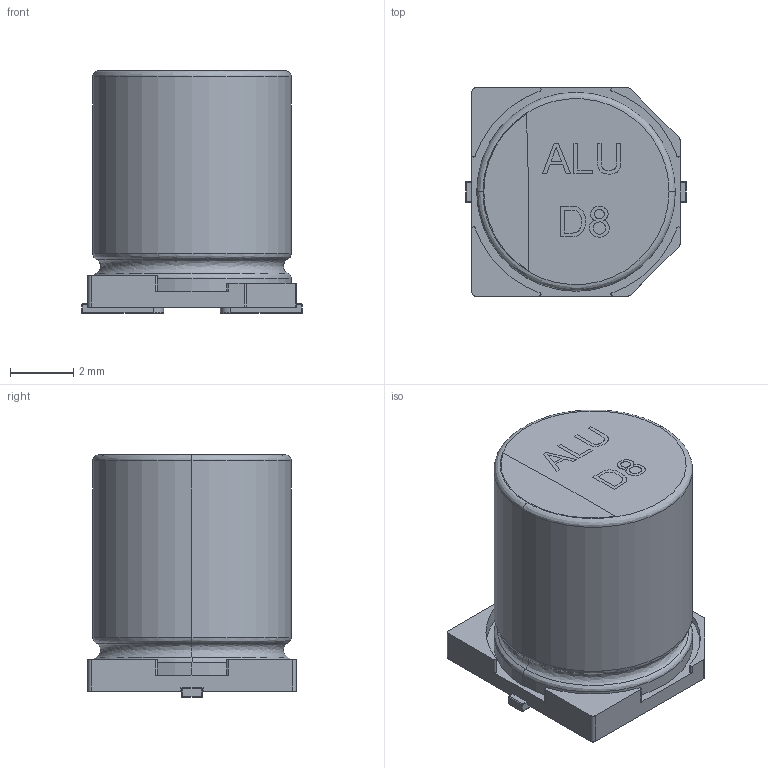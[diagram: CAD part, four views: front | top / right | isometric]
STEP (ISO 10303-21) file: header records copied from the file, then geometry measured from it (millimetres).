
FILE_DESCRIPTION(('FreeCAD Model'),'2;1');
FILE_NAME('C:/Users/cr185092/Documents/KiCAD_Projects/VORON_V2.0_Expander_option2/VORON_V2.0.pretty/3D_Models\c_elec_6.3x7.7.step', '2017-11-19T14:02:54',('kicad StepUp'),('ksu MCAD'), 'Open CASCADE STEP processor 6.8','FreeCAD','Unknown');
FILE_SCHEMA(('AUTOMOTIVE_DESIGN_CC2 { 1 2 10303 214 -1 1 5 4 }'));
Length unit declared in the file: millimetre
Products named in the file (1): c_elec_6.3x7.7
Bounding box: 7 x 6.6 x 7.7 mm (x, y, z)
Volume: 239.3 mm3; surface area: 250.4 mm2
Topology: 1 solids, 1 shells, 107 faces, 336 edges, 234 vertices
Faces by surface type: cylinder 46, plane 39, bspline 22
Entity records: 4802 total; most frequent: CARTESIAN_POINT 1176, ORIENTED_EDGE 656, DIRECTION 543, EDGE_CURVE 328, VERTEX_POINT 234, AXIS2_PLACEMENT_3D 196, LINE 151, VECTOR 151
